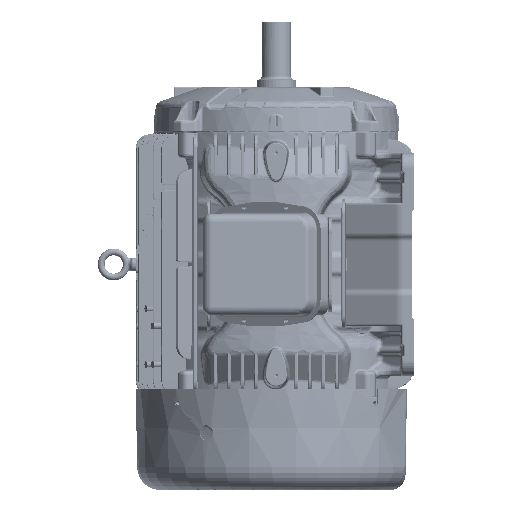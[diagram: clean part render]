
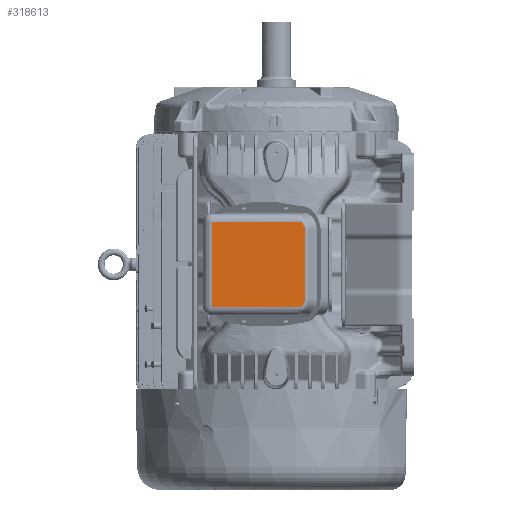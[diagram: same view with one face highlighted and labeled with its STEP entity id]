
A CAD part, left-side view. The second image highlights one B-rep face of the part: STEP entity #318613.
In plain terms, the highlighted planar face has unit normal (-1, 0, 0) as drawn and (0, 0, -1) by its records, which use the part's own axes.
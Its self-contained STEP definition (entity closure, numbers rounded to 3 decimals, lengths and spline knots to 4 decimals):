
#316346=CARTESIAN_POINT('',(-2.75,6.3873,0.));
#316369=DIRECTION('',(0.,1.,0.));
#316370=VECTOR('',#316369,5.8275);
#316371=CARTESIAN_POINT('',(-2.75,0.5598,0.));
#316372=LINE('',#316371,#316370);
#316533=CARTESIAN_POINT('',(2.75,6.3873,0.));
#316534=CARTESIAN_POINT('',(2.7141,6.4286,0.));
#316535=CARTESIAN_POINT('',(2.6381,6.5004,0.));
#316536=CARTESIAN_POINT('',(2.5109,6.5786,0.));
#316537=CARTESIAN_POINT('',(2.3791,6.6237,0.));
#316538=CARTESIAN_POINT('',(2.293,6.633,0.));
#316539=CARTESIAN_POINT('',(2.25,6.633,0.));
#316550=DIRECTION('',(1.,0.,0.));
#316551=VECTOR('',#316550,4.5);
#316552=CARTESIAN_POINT('',(-2.25,6.633,0.));
#316553=LINE('',#316552,#316551);
#316567=CARTESIAN_POINT('',(-2.75,6.3873,0.));
#316568=CARTESIAN_POINT('',(-2.7141,6.4286,0.));
#316569=CARTESIAN_POINT('',(-2.6381,6.5004,0.));
#316570=CARTESIAN_POINT('',(-2.5109,6.5786,0.));
#316571=CARTESIAN_POINT('',(-2.3791,6.6237,0.));
#316572=CARTESIAN_POINT('',(-2.293,6.633,0.));
#316573=CARTESIAN_POINT('',(-2.25,6.633,0.));
#316580=DIRECTION('',(1.,0.,0.));
#316581=VECTOR('',#316580,5.5);
#316582=CARTESIAN_POINT('',(-2.75,0.5598,0.));
#316583=LINE('',#316582,#316581);
#316698=DIRECTION('',(0.,1.,0.));
#316699=VECTOR('',#316698,5.8275);
#316700=CARTESIAN_POINT('',(2.75,0.5598,0.));
#316701=LINE('',#316700,#316699);
#316712=CARTESIAN_POINT('',(2.75,6.3873,0.));
#316763=CARTESIAN_POINT('',(2.75,0.5598,0.));
#316765=VERTEX_POINT('',#316763);
#316773=CARTESIAN_POINT('',(-2.75,0.5598,0.));
#316775=VERTEX_POINT('',#316773);
#316778=VERTEX_POINT('',#316712);
#316780=VERTEX_POINT('',#316346);
#316887=VERTEX_POINT('',#316539);
#316890=CARTESIAN_POINT('',(-2.25,6.633,0.));
#316891=VERTEX_POINT('',#316890);
#318598=CARTESIAN_POINT('',(-3.3098,0.5598,0.));
#318599=DIRECTION('',(0.,0.,-1.));
#318600=DIRECTION('',(0.,1.,0.));
#318601=AXIS2_PLACEMENT_3D('',#318598,#318599,#318600);
#318602=PLANE('',#318601);
#318603=ORIENTED_EDGE('',*,*,#318253,.F.);
#318605=ORIENTED_EDGE('',*,*,#318604,.T.);
#318607=ORIENTED_EDGE('',*,*,#318606,.T.);
#318608=ORIENTED_EDGE('',*,*,#318532,.T.);
#318609=ORIENTED_EDGE('',*,*,#318547,.F.);
#318610=ORIENTED_EDGE('',*,*,#318592,.F.);
#318611=EDGE_LOOP('',(#318603,#318605,#318607,#318608,#318609,#318610));
#318612=FACE_OUTER_BOUND('',#318611,.F.);
#318613=ADVANCED_FACE('',(#318612),#318602,.T.);
#316540=B_SPLINE_CURVE_WITH_KNOTS('',3,(#316533,#316534,#316535,#316536,#316537,
#316538,#316539),.UNSPECIFIED.,.F.,.F.,(4,1,1,1,4),(0.,0.25,0.5,0.75,
1.),.UNSPECIFIED.);
#316574=B_SPLINE_CURVE_WITH_KNOTS('',3,(#316567,#316568,#316569,#316570,#316571,
#316572,#316573),.UNSPECIFIED.,.F.,.F.,(4,1,1,1,4),(0.,0.25,0.5,0.75,
1.),.UNSPECIFIED.);
#318253=EDGE_CURVE('',#316775,#316780,#316372,.T.);
#318532=EDGE_CURVE('',#316778,#316887,#316540,.T.);
#318547=EDGE_CURVE('',#316891,#316887,#316553,.T.);
#318592=EDGE_CURVE('',#316780,#316891,#316574,.T.);
#318604=EDGE_CURVE('',#316775,#316765,#316583,.T.);
#318606=EDGE_CURVE('',#316765,#316778,#316701,.T.);
